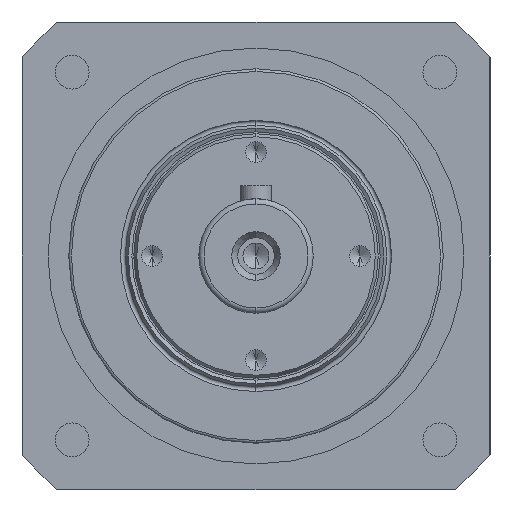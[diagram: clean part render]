
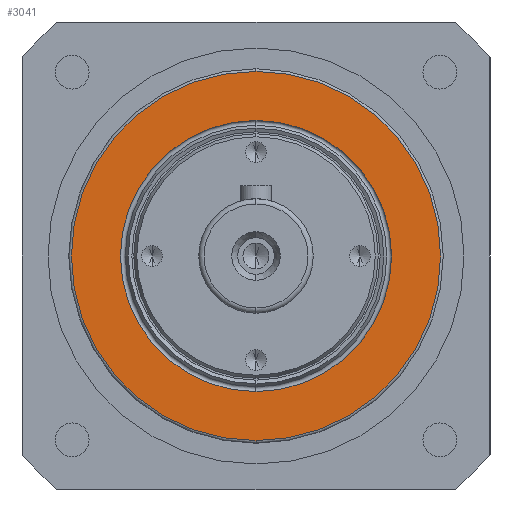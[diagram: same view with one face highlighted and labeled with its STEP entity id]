
A CAD part, left-side view. The second image highlights one B-rep face of the part: STEP entity #3041.
In plain terms, the highlighted planar face has unit normal (-1, 0, 0) as drawn and (0, -1, 0) by its records, which use the part's own axes.
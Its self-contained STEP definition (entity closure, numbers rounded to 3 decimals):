
#52 = DIRECTION ( 'NONE',  ( 0., 1., 0. ) ) ;
#164 = AXIS2_PLACEMENT_3D ( 'NONE', #8304, #3994, #9046 ) ;
#510 = CIRCLE ( 'NONE', #164, 35.5 ) ;
#569 = DIRECTION ( 'NONE',  ( 0., 1., 0. ) ) ;
#2097 = AXIS2_PLACEMENT_3D ( 'NONE', #4897, #569, #5590 ) ;
#2561 = CIRCLE ( 'NONE', #8656, 26.073 ) ;
#2864 = CARTESIAN_POINT ( 'NONE',  ( 0., 0., 0. ) ) ;
#3041 = ADVANCED_FACE ( 'NONE', ( #5742, #3890 ), #3573, .T. ) ;
#3123 = ORIENTED_EDGE ( 'NONE', *, *, #5821, .F. ) ;
#3315 = CIRCLE ( 'NONE', #7728, 26.073 ) ;
#3423 = DIRECTION ( 'NONE',  ( 0., 0., -1. ) ) ;
#3434 = DIRECTION ( 'NONE',  ( 0., -1., 0. ) ) ;
#3553 = ORIENTED_EDGE ( 'NONE', *, *, #8410, .T. ) ;
#3570 = DIRECTION ( 'NONE',  ( 0., 0., 1. ) ) ;
#3573 = PLANE ( 'NONE',  #3966 ) ;
#3596 = CARTESIAN_POINT ( 'NONE',  ( 0., 0., 35.5 ) ) ;
#3890 = FACE_OUTER_BOUND ( 'NONE', #8543, .T. ) ;
#3916 = VERTEX_POINT ( 'NONE', #4039 ) ;
#3966 = AXIS2_PLACEMENT_3D ( 'NONE', #3596, #3434, #3423 ) ;
#3994 = DIRECTION ( 'NONE',  ( 0., 1., 0. ) ) ;
#4039 = CARTESIAN_POINT ( 'NONE',  ( 0., 0., -26.073 ) ) ;
#4206 = VERTEX_POINT ( 'NONE', #6889 ) ;
#4386 = CARTESIAN_POINT ( 'NONE',  ( 0., 0., 0. ) ) ;
#4599 = CARTESIAN_POINT ( 'NONE',  ( 0., 0., -35.5 ) ) ;
#4897 = CARTESIAN_POINT ( 'NONE',  ( 0., 0., 0. ) ) ;
#4991 = ORIENTED_EDGE ( 'NONE', *, *, #9118, .T. ) ;
#5090 = DIRECTION ( 'NONE',  ( 0., 0., 1. ) ) ;
#5162 = CARTESIAN_POINT ( 'NONE',  ( 0., 0., 26.073 ) ) ;
#5253 = CIRCLE ( 'NONE', #2097, 35.5 ) ;
#5590 = DIRECTION ( 'NONE',  ( 0., 0., 1. ) ) ;
#5742 = FACE_BOUND ( 'NONE', #7009, .T. ) ;
#5821 = EDGE_CURVE ( 'NONE', #4206, #8137, #5253, .T. ) ;
#6271 = VERTEX_POINT ( 'NONE', #5162 ) ;
#6889 = CARTESIAN_POINT ( 'NONE',  ( 0., 0., 35.5 ) ) ;
#7009 = EDGE_LOOP ( 'NONE', ( #4991, #3553 ) ) ;
#7338 = ORIENTED_EDGE ( 'NONE', *, *, #7601, .F. ) ;
#7601 = EDGE_CURVE ( 'NONE', #8137, #4206, #510, .T. ) ;
#7728 = AXIS2_PLACEMENT_3D ( 'NONE', #2864, #7850, #3570 ) ;
#7850 = DIRECTION ( 'NONE',  ( 0., 1., 0. ) ) ;
#8137 = VERTEX_POINT ( 'NONE', #4599 ) ;
#8304 = CARTESIAN_POINT ( 'NONE',  ( 0., 0., 0. ) ) ;
#8410 = EDGE_CURVE ( 'NONE', #3916, #6271, #2561, .T. ) ;
#8543 = EDGE_LOOP ( 'NONE', ( #3123, #7338 ) ) ;
#8656 = AXIS2_PLACEMENT_3D ( 'NONE', #4386, #52, #5090 ) ;
#9046 = DIRECTION ( 'NONE',  ( 0., 0., 1. ) ) ;
#9118 = EDGE_CURVE ( 'NONE', #6271, #3916, #3315, .T. ) ;
